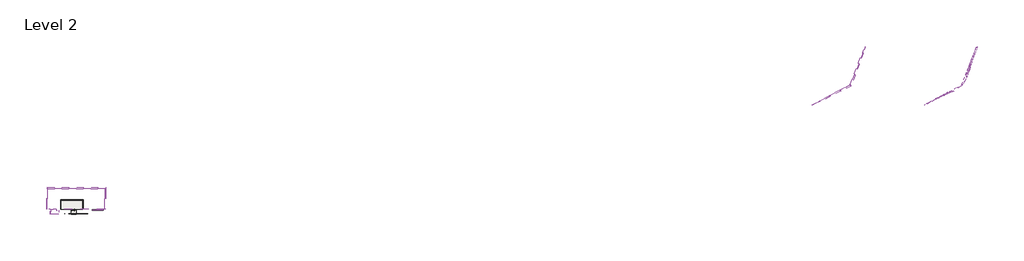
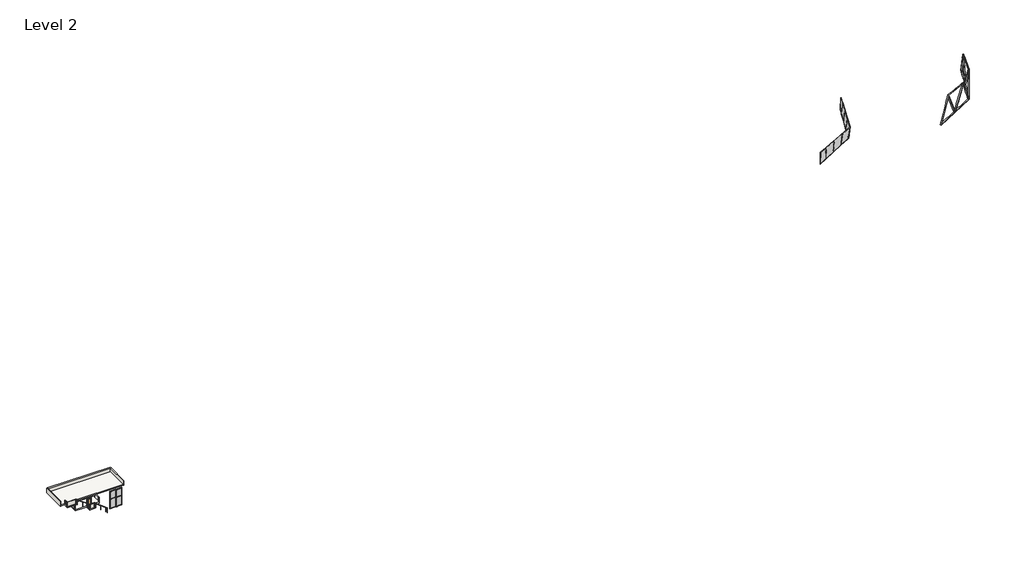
# One storey, incomplete: 30 members, 18 plates, 5 walls, 4 railings, 4 slabs, 1 door.
"""IFC4 building model written with IfcOpenShell, lengths in millimetres."""

from ifc_helpers import new_model, si_unit, frame, origin, place, context, project, spatial, polyline, outline, extrude, faceted_brep, transform, mapped, element, save
from components import m_single_glass_1_0762_x_2032mm_4bb71081, member_465d86df, member_bf9f9b58, member_fce9cc7b, member_737e6903, member_a4a2a518, member_33878ae9, member_e5f856a1, member_f76e1363, member_49bb4068, member_fa6789e4, member_02b95b9d, member_c74fcd82, member_8e96c683, member_e577d0a1, member_c71dc75c, member_d9327cc8, member_e27e8de2, member_f50f8ca6, member_f0fea5a5, member_1829b35c, member_ee409385, member_320d1225, plate_5596ec4e, plate_7c1eda09, plate_b47bc057, plate_38db130b, plate_ba2d2b6b, plate_bd606b41, empty_system_panel_empty_95a5b1c6, empty_system_panel_empty_02da1d72, empty_system_panel_empty_d6b783ce, empty_system_panel_empty_7efb6728, empty_system_panel_empty_6bcfcd67, empty_system_panel_empty_326aa2c1, empty_system_panel_empty_fd27e089, empty_system_panel_empty_c55b79c3, system_panel_glazed_29a6af3b, system_panel_glazed_d02f8e2e, guardrail_rectangular_tn_balcony_1_09f7f64d, guardrail_rectangular_tn_stairs_1_12bd660e, guardrail_rectangular_tn_stairs_2_f829b52c, guardrail_rectangular_tn_stairs_3_a4749100

model = new_model("IFC4")

# Units and contexts
model_context = context("Model", 3, world=origin())
ifc_project = project(units=[si_unit("LENGTHUNIT", "METRE", prefix="MILLI")], contexts=[model_context])

# Site, building, storey
site = spatial("IfcSite", under=ifc_project)
building = spatial("IfcBuilding", under=site)
storey = spatial("IfcBuildingStorey", under=building, Name="Level 2", Elevation=3048.0)

# Door
placement = place(None, origin())
m_single_glass_1_0762_x_2032mm_shape = m_single_glass_1_0762_x_2032mm_4bb71081(model_context)
element("IfcDoor", 1, ObjectType="M_Single-Glass 1 : 0762 x 2032mm", at=placement, inside=storey, context=model_context, shape_type="MappedRepresentation", body=[
    mapped(m_single_glass_1_0762_x_2032mm_shape, transform((-21475.1239276, -12846.8966791, 2600.0), x_axis=(-1.0, 0.0, 0.0), y_axis=(0.0, -1.0, 0.0), z_axis=(0.0, 0.0, 1.0))),
])

# Members
member_shape = member_465d86df(model_context)
element("IfcMember", 2, ObjectType="Circular Mullion : 2.5\" Circular", at=placement, inside=storey, context=model_context, shape_type="MappedRepresentation", body=[
    mapped(member_shape, transform((172184.898253, 14582.8122111, 8980.3473318), x_axis=(-0.8899639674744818, -0.45590503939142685, -0.010711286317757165), y_axis=(0.45603085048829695, -0.8897184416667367, -0.020903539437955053), z_axis=(0.0, -0.023488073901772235, 0.9997241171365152))),
])
member_2_shape = member_bf9f9b58(model_context)
element("IfcMember", 3, ObjectType="Circular Mullion : 2.5\" Circular", at=placement, inside=storey, context=model_context, shape_type="MappedRepresentation", body=[
    mapped(member_2_shape, transform((174020.541417, 15632.6434293, 5942.2259725), x_axis=(0.04117391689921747, -0.077245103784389, 0.9961615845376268), y_axis=(0.46857394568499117, -0.8790769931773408, -0.0875334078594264), z_axis=(0.8824642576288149, 0.470379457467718, 0.0))),
])
member_3_shape = member_fce9cc7b(model_context)
element("IfcMember", 4, ObjectType="Circular Mullion : 2.5\" Circular", at=placement, inside=storey, context=model_context, shape_type="MappedRepresentation", body=[
    mapped(member_3_shape, transform((176693.1325395, 17057.2132647, 5942.2259725), x_axis=(0.05686888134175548, -0.10668993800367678, 0.9926646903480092), y_axis=(0.46692907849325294, -0.8759911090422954, -0.12090001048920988), z_axis=(0.8824642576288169, 0.470379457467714, 0.0))),
])
element("IfcMember", 5, ObjectType="Circular Mullion : 2.5\" Circular", at=placement, inside=storey, context=model_context, shape_type="MappedRepresentation", body=[
    mapped(member_3_shape, transform((179365.723662, 18481.7831001, 5942.2259725), x_axis=(0.07237347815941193, -0.13577762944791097, 0.9880923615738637), y_axis=(0.46477834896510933, -0.8719561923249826, -0.15386190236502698), z_axis=(0.8824642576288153, 0.47037945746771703, 0.0))),
])
member_4_shape = member_737e6903(model_context)
element("IfcMember", 6, ObjectType="Circular Mullion : 2.5\" Circular", at=placement, inside=storey, context=model_context, shape_type="MappedRepresentation", body=[
    mapped(member_4_shape, transform((182010.2965443, 19891.4183877, 5942.2259725), x_axis=(0.08748156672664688, -0.16412144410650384, 0.9825533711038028), y_axis=(0.462172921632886, -0.8670682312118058, -0.18598084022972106), z_axis=(0.8824642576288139, 0.47037945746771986, 0.0))),
])
member_5_shape = member_a4a2a518(model_context)
element("IfcMember", 7, ObjectType="Circular Mullion : 2.5\" Circular", at=placement, inside=storey, context=model_context, shape_type="MappedRepresentation", body=[
    mapped(member_5_shape, transform((174048.5596572, 15647.5779771, 5942.2259725), x_axis=(0.8825700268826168, 0.47017366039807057, 0.002622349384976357), y_axis=(0.46983959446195, -0.8817030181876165, -0.043017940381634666), z_axis=(-0.01791376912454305, 0.03919842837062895, -0.9990708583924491))),
])
member_6_shape = member_33878ae9(model_context)
element("IfcMember", 8, ObjectType="Circular Mullion : 2.5\" Circular", at=placement, inside=storey, context=model_context, shape_type="MappedRepresentation", body=[
    mapped(member_6_shape, transform((176721.1507797, 17072.1478125, 5942.2259725), x_axis=(0.8818875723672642, 0.4713669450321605, -0.009354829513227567), y_axis=(0.4694468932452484, -0.8797811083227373, -0.07486531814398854), z_axis=(-0.043519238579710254, 0.06163119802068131, -0.9971497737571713))),
])
member_7_shape = member_e5f856a1(model_context)
element("IfcMember", 9, ObjectType="Circular Mullion : 2.5\" Circular", at=placement, inside=storey, context=model_context, shape_type="MappedRepresentation", body=[
    mapped(member_7_shape, transform((179393.7419022, 18496.7176478, 5942.2259725), x_axis=(0.8807088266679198, 0.4731853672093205, -0.0211558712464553), y_axis=(0.468613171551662, -0.8769604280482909, -0.10649931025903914), z_axis=(-0.06894677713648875, 0.08388096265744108, -0.9940876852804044))),
])
member_8_shape = member_f76e1363(model_context)
element("IfcMember", 10, ObjectType="Circular Mullion : 2.5\" Circular", at=placement, inside=storey, context=model_context, shape_type="MappedRepresentation", body=[
    mapped(member_8_shape, transform((185957.367604, 29915.0951277, 5929.5983933), x_axis=(0.3487066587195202, 0.9372009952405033, -0.007613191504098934), y_axis=(0.9369777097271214, -0.34878975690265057, -0.02045670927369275), z_axis=(-0.02182745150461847, 0.0, -0.9997617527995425))),
])
member_9_shape = member_49bb4068(model_context)
element("IfcMember", 11, ObjectType="Circular Mullion : 2.5\" Circular", at=placement, inside=storey, context=model_context, shape_type="MappedRepresentation", body=[
    mapped(member_9_shape, transform((183142.2727065, 22689.0260706, 5929.5983933), x_axis=(0.13409221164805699, -0.052238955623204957, 0.9895910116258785), y_axis=(0.922089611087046, -0.3592229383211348, -0.14390840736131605), z_axis=(0.3630014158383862, 0.9317885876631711, 0.0))),
])
member_10_shape = member_fa6789e4(model_context)
element("IfcMember", 12, ObjectType="Circular Mullion : 2.5\" Circular", at=placement, inside=storey, context=model_context, shape_type="MappedRepresentation", body=[
    mapped(member_10_shape, transform((184231.3046248, 25484.4628617, 5929.5983933), x_axis=(0.11156237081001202, -0.043461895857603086, 0.9928065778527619), y_axis=(0.925085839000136, -0.36039019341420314, -0.1197292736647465), z_axis=(0.3630014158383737, 0.931788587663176, 0.0))),
])
element("IfcMember", 13, ObjectType="Circular Mullion : 2.5\" Circular", at=placement, inside=storey, context=model_context, shape_type="MappedRepresentation", body=[
    mapped(member_10_shape, transform((185320.3365431, 28279.8996529, 5929.5983933), x_axis=(0.08883228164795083, -0.03460682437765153, 0.9954452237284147), y_axis=(0.9275444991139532, -0.3613480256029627, -0.09533523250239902), z_axis=(0.3630014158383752, 0.9317885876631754, 0.0))),
])
member_11_shape = member_02b95b9d(model_context)
element("IfcMember", 14, ObjectType="Circular Mullion : 2.5\" Circular", at=placement, inside=storey, context=model_context, shape_type="MappedRepresentation", body=[
    mapped(member_11_shape, transform((185934.3170141, 29855.9265524, 5929.5983933), x_axis=(0.07594377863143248, -0.029585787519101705, 0.9966730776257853), y_axis=(0.9286885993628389, -0.3617937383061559, -0.08150322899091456), z_axis=(0.36300141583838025, 0.9317885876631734, 0.0))),
])
member_12_shape = member_c74fcd82(model_context)
element("IfcMember", 15, ObjectType="Circular Mullion : 2.5\" Circular", at=placement, inside=storey, context=model_context, shape_type="MappedRepresentation", body=[
    mapped(member_12_shape, transform((183153.7980014, 22718.6103582, 5929.5983933), x_axis=(0.3686184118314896, 0.9285290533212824, 0.044207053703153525), y_axis=(0.9266032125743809, -0.3632186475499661, -0.09735861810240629), z_axis=(-0.07434347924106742, 0.07685057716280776, -0.9942670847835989))),
])
member_13_shape = member_8e96c683(model_context)
element("IfcMember", 16, ObjectType="Circular Mullion : 2.5\" Circular", at=placement, inside=storey, context=model_context, shape_type="MappedRepresentation", body=[
    mapped(member_13_shape, transform((184242.8299197, 25514.0471494, 5929.5983933), x_axis=(0.36560324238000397, 0.930457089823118, 0.024163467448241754), y_axis=(0.9291990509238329, -0.3633547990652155, -0.0675456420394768), z_axis=(-0.05406840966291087, 0.04714757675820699, -0.9974235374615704))),
])
member_14_shape = member_e577d0a1(model_context)
element("IfcMember", 17, ObjectType="Circular Mullion : 2.5\" Circular", at=placement, inside=storey, context=model_context, shape_type="MappedRepresentation", body=[
    mapped(member_14_shape, transform((185331.861838, 28309.4839405, 5929.5983933), x_axis=(0.3633406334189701, 0.9316484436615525, 0.003842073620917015), y_axis=(0.9310495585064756, -0.3629520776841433, -0.03758335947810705), z_axis=(-0.03361998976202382, 0.017232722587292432, -0.9992861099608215))),
])
member_15_shape = member_c71dc75c(model_context)
element("IfcMember", 18, ObjectType="Circular Mullion : 2.5\" Circular", at=placement, inside=storey, context=model_context, shape_type="MappedRepresentation", body=[
    mapped(member_15_shape, transform((182066.3330246, 19921.2874832, 5942.2259725), x_axis=(0.8873309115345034, 0.45978908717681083, -0.035183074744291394), y_axis=(0.45142763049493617, -0.8816942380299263, -0.13721648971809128), z_axis=(-0.09411135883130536, 0.10587382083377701, -0.9899160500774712))),
])
member_16_shape = member_d9327cc8(model_context)
element("IfcMember", 19, ObjectType="Circular Mullion : 2.5\" Circular", at=placement, inside=storey, context=model_context, shape_type="MappedRepresentation", body=[
    mapped(member_16_shape, transform((182354.4381566, 19597.0956195, 8968.0250125), x_axis=(-0.35509346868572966, -0.9324825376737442, -0.06621892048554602), y_axis=(0.9300554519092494, -0.3452414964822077, -0.12571859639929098), z_axis=(0.09436887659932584, -0.10622912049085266, 0.989853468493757))),
])
member_17_shape = member_e27e8de2(model_context)
element("IfcMember", 20, ObjectType="Rectangular Mullion : 2.5\" x 5\" rectangular", at=placement, inside=storey, context=model_context, shape_type="MappedRepresentation", body=[
    mapped(member_17_shape, transform((-13563.6239276, -12846.8966791, 4503.09822), x_axis=(0.0, 0.0, 1.0), y_axis=(0.0, -1.0, 0.0), z_axis=(1.0, 0.0, 0.0))),
])
element("IfcMember", 21, ObjectType="Rectangular Mullion : 2.5\" x 5\" rectangular", at=placement, inside=storey, context=model_context, shape_type="MappedRepresentation", body=[
    mapped(member_17_shape, transform((-14981.8739276, -12846.8966791, 4503.09822), x_axis=(0.0, 0.0, 1.0), y_axis=(0.0, -1.0, 0.0), z_axis=(1.0, 0.0, 0.0))),
])
element("IfcMember", 22, ObjectType="Rectangular Mullion : 2.5\" x 5\" rectangular", at=placement, inside=storey, context=model_context, shape_type="MappedRepresentation", body=[
    mapped(member_17_shape, transform((-16336.6239276, -12846.8966791, 92.338716), x_axis=(0.0, 0.0, -1.0), y_axis=(0.0, -1.0, 0.0), z_axis=(-1.0, 0.0, 0.0))),
])
element("IfcMember", 23, ObjectType="Rectangular Mullion : 2.5\" x 5\" rectangular", at=placement, inside=storey, context=model_context, shape_type="MappedRepresentation", body=[
    mapped(member_17_shape, transform((-14918.3739276, -12846.8966791, 92.338716), x_axis=(0.0, 0.0, -1.0), y_axis=(0.0, -1.0, 0.0), z_axis=(-1.0, 0.0, 0.0))),
])
member_18_shape = member_f50f8ca6(model_context)
element("IfcMember", 24, ObjectType="Rectangular Mullion : 2.5\" x 5\" rectangular", at=placement, inside=storey, context=model_context, shape_type="MappedRepresentation", body=[
    mapped(member_18_shape, transform((-14981.8739276, -12846.8966791, 2530.738716), x_axis=(0.0, 0.0, 1.0), y_axis=(0.0, -1.0, 0.0), z_axis=(1.0, 0.0, 0.0))),
])
element("IfcMember", 25, ObjectType="Rectangular Mullion : 2.5\" x 5\" rectangular", at=placement, inside=storey, context=model_context, shape_type="MappedRepresentation", body=[
    mapped(member_18_shape, transform((-13563.6239276, -12846.8966791, 2530.738716), x_axis=(0.0, 0.0, 1.0), y_axis=(0.0, -1.0, 0.0), z_axis=(1.0, 0.0, 0.0))),
])
member_19_shape = member_f0fea5a5(model_context)
element("IfcMember", 26, ObjectType="Rectangular Mullion : 2.5\" x 5\" rectangular", at=placement, inside=storey, context=model_context, shape_type="MappedRepresentation", body=[
    mapped(member_19_shape, transform((-14950.1239276, -12846.8966791, 92.338716), x_axis=(1.0, 0.0, 0.0), y_axis=(0.0, -1.0, 0.0), z_axis=(0.0, 0.0, -1.0))),
])
member_20_shape = member_1829b35c(model_context)
element("IfcMember", 27, ObjectType="Rectangular Mullion : 2.5\" x 5\" rectangular", at=placement, inside=storey, context=model_context, shape_type="MappedRepresentation", body=[
    mapped(member_20_shape, transform((-14950.1239276, -12846.8966791, 2530.738716), x_axis=(1.0, 0.0, 0.0), y_axis=(0.0, -1.0, 0.0), z_axis=(0.0, 0.0, -1.0))),
])
member_21_shape = member_ee409385(model_context)
element("IfcMember", 28, ObjectType="Rectangular Mullion : 2.5\" x 5\" rectangular", at=placement, inside=storey, context=model_context, shape_type="MappedRepresentation", body=[
    mapped(member_21_shape, transform((-13500.1239276, -12846.8966791, 92.338716), x_axis=(1.0, 0.0, 0.0), y_axis=(0.0, -1.0, 0.0), z_axis=(0.0, 0.0, -1.0))),
])
member_22_shape = member_320d1225(model_context)
element("IfcMember", 29, ObjectType="Rectangular Mullion : 2.5\" x 5\" rectangular", at=placement, inside=storey, context=model_context, shape_type="MappedRepresentation", body=[
    mapped(member_22_shape, transform((-13500.1239276, -12846.8966791, 2530.738716), x_axis=(1.0, 0.0, 0.0), y_axis=(0.0, -1.0, 0.0), z_axis=(0.0, 0.0, -1.0))),
])
element("IfcMember", 30, ObjectType="Rectangular Mullion : 2.5\" x 5\" rectangular", at=placement, inside=storey, context=model_context, shape_type="MappedRepresentation", body=[
    mapped(member_22_shape, transform((-16400.1239276, -12846.8966791, 4503.09822), x_axis=(-1.0, 0.0, 0.0), y_axis=(0.0, -1.0, 0.0), z_axis=(0.0, 0.0, 1.0))),
])
element("IfcMember", 31, ObjectType="Rectangular Mullion : 2.5\" x 5\" rectangular", at=placement, inside=storey, context=model_context, shape_type="MappedRepresentation", body=[
    mapped(member_21_shape, transform((-16400.1239276, -12846.8966791, 2530.738716), x_axis=(-1.0, 0.0, 0.0), y_axis=(0.0, -1.0, 0.0), z_axis=(0.0, 0.0, 1.0))),
])

# Plates
plate_shape = plate_5596ec4e(model_context)
element("IfcPlate", 32, ObjectType="tn_cpanel_patbase_triangle_flat_seamless_frame_02_cylinder : tn_triangle_seamless_frame_t8\"xh8\"", at=placement, inside=storey, context=model_context, shape_type="MappedRepresentation", body=[
    mapped(plate_shape, transform((211354.2463974, 19170.4744723, 4528.3749123), x_axis=(0.3093717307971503, 0.9505947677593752, 0.025665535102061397), y_axis=(0.012813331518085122, -0.031154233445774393, 0.9994324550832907), z_axis=(0.9508548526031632, -0.308867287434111, -0.0218185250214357))),
])
plate_2_shape = plate_7c1eda09(model_context)
element("IfcPlate", 33, ObjectType="tn_cpanel_patbase_triangle_flat_seamless_frame_02_cylinder : tn_triangle_seamless_frame_t8\"xh8\"", at=placement, inside=storey, context=model_context, shape_type="MappedRepresentation", body=[
    mapped(plate_2_shape, transform((214757.1751332, 27780.4889664, 13021.0380401), x_axis=(-0.36550456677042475, -0.9303066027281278, -0.03059471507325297), y_axis=(-0.03524542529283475, 0.04667783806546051, -0.998288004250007), z_axis=(0.930142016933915, -0.3638005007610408, -0.04985001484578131))),
])
plate_3_shape = plate_b47bc057(model_context)
element("IfcPlate", 34, ObjectType="tn_cpanel_patbase_triangle_flat_seamless_frame_02_cylinder : tn_triangle_seamless_frame_t8\"xh8\"", at=placement, inside=storey, context=model_context, shape_type="MappedRepresentation", body=[
    mapped(plate_3_shape, transform((216379.9733416, 32989.4685641, 12952.3013892), x_axis=(-0.36413833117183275, -0.9311702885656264, -0.01803245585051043), y_axis=(0.009663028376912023, 0.01558334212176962, -0.9998318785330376), z_axis=(0.9312947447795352, -0.3642513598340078, 0.0033234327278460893))),
])
plate_4_shape = plate_38db130b(model_context)
element("IfcPlate", 35, ObjectType="tn_cpanel_patbase_triangle_flat_seamless_frame_02_cylinder : tn_triangle_seamless_frame_t8\"xh8\"", at=placement, inside=storey, context=model_context, shape_type="MappedRepresentation", body=[
    mapped(plate_4_shape, transform((200816.7857258, 14756.2856745, 4819.2413543), x_axis=(0.9070813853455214, 0.42050060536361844, -0.019560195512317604), y_axis=(0.028617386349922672, -0.015239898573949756, 0.9994742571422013), z_axis=(0.4199814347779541, -0.9071642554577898, -0.025857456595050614))),
])
plate_5_shape = plate_ba2d2b6b(model_context)
element("IfcPlate", 36, ObjectType="tn_cpanel_patbase_triangle_flat_seamless_frame_02_cylinder : tn_triangle_seamless_frame_t8\"xh8\"", at=placement, inside=storey, context=model_context, shape_type="MappedRepresentation", body=[
    mapped(plate_5_shape, transform((209387.5391701, 18914.6641403, 12772.8890577), x_axis=(-0.8816455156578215, -0.4716281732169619, 0.01637226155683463), y_axis=(-0.01431430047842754, -0.007951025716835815, -0.9998659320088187), z_axis=(0.4716951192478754, -0.8817616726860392, 0.0002589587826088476))),
])
plate_6_shape = plate_bd606b41(model_context)
element("IfcPlate", 37, ObjectType="tn_cpanel_patbase_triangle_flat_seamless_frame_02_cylinder : tn_triangle_seamless_frame_t8\"xh8\"", at=placement, inside=storey, context=model_context, shape_type="MappedRepresentation", body=[
    mapped(plate_6_shape, transform((214518.4676233, 21231.3831931, 12745.0283099), x_axis=(-0.8810879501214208, -0.47254310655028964, 0.019673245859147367), y_axis=(-0.04287748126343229, 0.03838420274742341, -0.9983427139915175), z_axis=(0.4710048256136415, -0.8804712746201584, -0.054081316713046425))),
])
empty_system_panel_empty_shape = empty_system_panel_empty_95a5b1c6(model_context)
element("IfcPlate", 38, ObjectType="Empty System Panel : Empty", at=placement, inside=storey, context=model_context, shape_type="MappedRepresentation", body=[
    mapped(empty_system_panel_empty_shape, transform((182583.4482242, 21241.4306525, 5961.0124307), x_axis=(0.3490978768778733, 0.9370847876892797, 0.0016652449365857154), y_axis=(-0.931336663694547, 0.3467588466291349, 0.11122194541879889), z_axis=(0.10364695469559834, -0.040378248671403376, 0.9937941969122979))),
])
empty_system_panel_empty_2_shape = empty_system_panel_empty_02da1d72(model_context)
element("IfcPlate", 39, ObjectType="Empty System Panel : Empty", at=placement, inside=storey, context=model_context, shape_type="MappedRepresentation", body=[
    mapped(empty_system_panel_empty_2_shape, transform((183676.9398124, 24051.4893577, 5961.1578865), x_axis=(0.34901813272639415, 0.9371151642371, 0.0012296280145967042), y_axis=(-0.9340033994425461, 0.34775173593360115, 0.08189249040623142), z_axis=(0.0763150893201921, -0.02973044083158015, 0.9966404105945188))),
])
empty_system_panel_empty_3_shape = empty_system_panel_empty_d6b783ce(model_context)
element("IfcPlate", 40, ObjectType="Empty System Panel : Empty", at=placement, inside=storey, context=model_context, shape_type="MappedRepresentation", body=[
    mapped(empty_system_panel_empty_3_shape, transform((184775.9741464, 26876.4639141, 5961.2756886), x_axis=(0.3489622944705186, 0.9371364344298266, 0.0007875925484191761), y_axis=(-0.9358661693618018, 0.3484452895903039, 0.05234876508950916), z_axis=(0.04878350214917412, -0.01900482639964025, 0.998628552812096))),
])
empty_system_panel_empty_4_shape = empty_system_panel_empty_7efb6728(model_context)
element("IfcPlate", 41, ObjectType="Empty System Panel : Empty", at=placement, inside=storey, context=model_context, shape_type="MappedRepresentation", body=[
    mapped(empty_system_panel_empty_4_shape, transform((185642.0678407, 29102.811343, 5961.3307845), x_axis=(0.348935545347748, 0.9371466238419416, 0.0004365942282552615), y_axis=(-0.9367572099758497, 0.34877704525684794, 0.02899141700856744), z_axis=(0.027016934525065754, -0.010525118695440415, 0.9995795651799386))),
])
empty_system_panel_empty_5_shape = empty_system_panel_empty_6bcfcd67(model_context)
element("IfcPlate", 42, ObjectType="Empty System Panel : Empty", at=placement, inside=storey, context=model_context, shape_type="MappedRepresentation", body=[
    mapped(empty_system_panel_empty_5_shape, transform((173116.2788945, 15149.5127966, 5973.9602564), x_axis=(0.8898511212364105, 0.4562507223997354, -0.000510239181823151), y_axis=(-0.4560028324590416, 0.8894034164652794, 0.03198405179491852), z_axis=(0.015046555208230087, -0.028228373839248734, 0.9994882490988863))),
])
empty_system_panel_empty_6_shape = empty_system_panel_empty_326aa2c1(model_context)
element("IfcPlate", 43, ObjectType="Empty System Panel : Empty", at=placement, inside=storey, context=model_context, shape_type="MappedRepresentation", body=[
    mapped(empty_system_panel_empty_6_shape, transform((175394.842761, 16362.8826545, 5973.9112305), x_axis=(0.8898330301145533, 0.45628532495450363, -0.0009384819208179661), y_axis=(-0.4554441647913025, 0.8883137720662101, 0.05890038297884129), z_axis=(0.02770904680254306, -0.05198408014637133, 0.9982634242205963))),
])
empty_system_panel_empty_7_shape = empty_system_panel_empty_fd27e089(model_context)
element("IfcPlate", 44, ObjectType="Empty System Panel : Empty", at=placement, inside=storey, context=model_context, shape_type="MappedRepresentation", body=[
    mapped(empty_system_panel_empty_7_shape, transform((178088.0415399, 17796.896736, 5973.7985488), x_axis=(0.889798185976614, 0.45635197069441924, -0.0014377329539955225), y_axis=(-0.4543662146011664, 0.8862113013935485, 0.09044817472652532), z_axis=(0.04255033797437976, -0.07982736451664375, 0.9959001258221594))),
])
empty_system_panel_empty_8_shape = empty_system_panel_empty_c55b79c3(model_context)
element("IfcPlate", 45, ObjectType="Empty System Panel : Empty", at=placement, inside=storey, context=model_context, shape_type="MappedRepresentation", body=[
    mapped(empty_system_panel_empty_8_shape, transform((180763.280033, 19221.7124741, 5973.6717027), x_axis=(0.8897491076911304, 0.4564458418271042, -0.0019284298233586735), y_axis=(-0.45284355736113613, 0.8832414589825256, 0.12172607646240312), z_axis=(0.05726463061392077, -0.10743239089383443, 0.9925618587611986))),
])
system_panel_glazed_shape = system_panel_glazed_29a6af3b(model_context)
element("IfcPlate", 46, ObjectType="System Panel : Glazed", at=placement, inside=storey, context=model_context, shape_type="MappedRepresentation", body=[
    mapped(system_panel_glazed_shape, transform((-15659.2489276, -12846.8966791, 155.838716), x_axis=(1.0, 0.0, 0.0), y_axis=(0.0, 1.0, 0.0), z_axis=(0.0, 0.0, 1.0))),
])
element("IfcPlate", 47, ObjectType="System Panel : Glazed", at=placement, inside=storey, context=model_context, shape_type="MappedRepresentation", body=[
    mapped(system_panel_glazed_shape, transform((-14240.9989276, -12846.8966791, 155.838716), x_axis=(1.0, 0.0, 0.0), y_axis=(0.0, 1.0, 0.0), z_axis=(0.0, 0.0, 1.0))),
])
system_panel_glazed_2_shape = system_panel_glazed_d02f8e2e(model_context)
element("IfcPlate", 48, ObjectType="System Panel : Glazed", at=placement, inside=storey, context=model_context, shape_type="MappedRepresentation", body=[
    mapped(system_panel_glazed_2_shape, transform((-15659.2489276, -12846.8966791, 2562.488716), x_axis=(1.0, 0.0, 0.0), y_axis=(0.0, 1.0, 0.0), z_axis=(0.0, 0.0, 1.0))),
])
element("IfcPlate", 49, ObjectType="System Panel : Glazed", at=placement, inside=storey, context=model_context, shape_type="MappedRepresentation", body=[
    mapped(system_panel_glazed_2_shape, transform((-14240.9989276, -12846.8966791, 2562.488716), x_axis=(1.0, 0.0, 0.0), y_axis=(0.0, 1.0, 0.0), z_axis=(0.0, 0.0, 1.0))),
])

# Railings
guardrail_rectangular_tn_balcony_1_shape = guardrail_rectangular_tn_balcony_1_09f7f64d(model_context)
element("IfcRailing", 50, ObjectType="Guardrail - Rectangular TN balcony 1", at=placement, inside=storey, context=model_context, shape_type="MappedRepresentation", body=[
    mapped(guardrail_rectangular_tn_balcony_1_shape, transform((0.0, 0.0, 0.0), x_axis=(1.0, 0.0, 0.0), y_axis=(0.0, 1.0, 0.0), z_axis=(0.0, 0.0, 1.0))),
])
guardrail_rectangular_tn_stairs_1_shape = guardrail_rectangular_tn_stairs_1_12bd660e(model_context)
element("IfcRailing", 51, ObjectType="Guardrail - Rectangular TN stairs 1", at=placement, inside=storey, context=model_context, shape_type="MappedRepresentation", body=[
    mapped(guardrail_rectangular_tn_stairs_1_shape, transform((0.0, 0.0, 0.0), x_axis=(1.0, 0.0, 0.0), y_axis=(0.0, 1.0, 0.0), z_axis=(0.0, 0.0, 1.0))),
])
guardrail_rectangular_tn_stairs_2_shape = guardrail_rectangular_tn_stairs_2_f829b52c(model_context)
element("IfcRailing", 52, ObjectType="Guardrail - Rectangular TN stairs 2", at=placement, inside=storey, context=model_context, shape_type="MappedRepresentation", body=[
    mapped(guardrail_rectangular_tn_stairs_2_shape, transform((0.0, 0.0, 0.0), x_axis=(1.0, 0.0, 0.0), y_axis=(0.0, 1.0, 0.0), z_axis=(0.0, 0.0, 1.0))),
])
guardrail_rectangular_tn_stairs_3_shape = guardrail_rectangular_tn_stairs_3_a4749100(model_context)
element("IfcRailing", 53, ObjectType="Guardrail - Rectangular TN stairs 3", at=placement, inside=storey, context=model_context, shape_type="MappedRepresentation", body=[
    mapped(guardrail_rectangular_tn_stairs_3_shape, transform((0.0, 0.0, 0.0), x_axis=(1.0, 0.0, 0.0), y_axis=(0.0, 1.0, 0.0), z_axis=(0.0, 0.0, 1.0))),
])

# Slabs
element("IfcSlab", 54, ObjectType="Generic 300mm", at=placement, inside=storey, context=model_context, shape_type="Brep", body=[
    faceted_brep([(-18900.1239276, -10296.8966791, 2300.0), (-18900.1239276, -12696.8966791, 2300.0), (-24685.6239276, -12696.8966791, 2300.0), (-24685.6239276, -10296.8966791, 2300.0), (-18900.1239276, -10296.8966791, 2600.0), (-24685.6239276, -10296.8966791, 2600.0), (-24685.6239276, -12696.8966791, 2600.0), (-21856.1239276, -12696.8966791, 2600.0), (-21094.1239276, -12696.8966791, 2600.0), (-18900.1239276, -12696.8966791, 2600.0)], [[[0, 1, 2, 3]], [[4, 5, 6, 7, 8, 9]], [[1, 0, 4, 9]], [[2, 1, 9, 8, 7, 6]], [[3, 2, 6, 5]], [[0, 3, 5, 4]]]),
])
element("IfcSlab", 55, ObjectType="Generic 300mm", at=placement, inside=storey, context=model_context, shape_type="Brep", body=[
    faceted_brep([(-13100.1239276, -7296.8966791, 4800.0), (-13100.1239276, -12696.8966791, 4800.0), (-25918.391678, -12696.8966791, 4800.0), (-27400.1239276, -12696.8966791, 4800.0), (-28200.1239276, -12696.8966791, 4800.0), (-28200.1239276, -7296.8966791, 4800.0), (-13100.1239276, -7296.8966791, 5100.0), (-28200.1239276, -7296.8966791, 5100.0), (-28200.1239276, -12696.8966791, 5100.0), (-27400.1239276, -12696.8966791, 5100.0), (-25918.391678, -12696.8966791, 5100.0), (-13100.1239276, -12696.8966791, 5100.0)], [[[0, 1, 2, 3, 4, 5]], [[6, 7, 8, 9, 10, 11]], [[1, 0, 6, 11]], [[4, 3, 2, 1, 11, 10, 9, 8]], [[5, 4, 8, 7]], [[0, 5, 7, 6]]]),
])
element("IfcSlab", 56, ObjectType="Generic 300mm", at=placement, inside=storey, context=model_context, shape_type="Brep", body=[
    faceted_brep([(-21950.1239276, -13946.8966791, 2300.0), (-21950.1239276, -12996.8966791, 2300.0), (-20650.1239276, -12996.8966791, 2300.0), (-20650.1239276, -13946.8966791, 2300.0), (-21950.1239276, -13946.8966791, 2600.0), (-21811.1057462, -13946.8966791, 2600.0), (-20891.1057462, -13946.8966791, 2600.0), (-20650.1239276, -13946.8966791, 2600.0), (-20650.1239276, -12996.8966791, 2600.0), (-21950.1239276, -12996.8966791, 2600.0)], [[[0, 1, 2, 3]], [[4, 5, 6, 7, 8, 9]], [[1, 0, 4, 9]], [[2, 1, 9, 8]], [[3, 2, 8, 7]], [[0, 3, 7, 6, 5, 4]]]),
])
element("IfcSlab", 57, ObjectType="Generic 300mm", at=placement, inside=storey, context=model_context, shape_type="Brep", body=[
    faceted_brep([(-27400.1239276, -13946.8966791, 4800.0), (-27400.1239276, -12696.8966791, 4800.0), (-25918.391678, -12696.8966791, 4800.0), (-25918.391678, -12996.8966791, 4800.0), (-25200.1239276, -12996.8966791, 4800.0), (-25200.1239276, -13946.8966791, 4800.0), (-27400.1239276, -13946.8966791, 5100.0), (-25400.1239276, -13946.8966791, 5100.0), (-25200.1239276, -13946.8966791, 5100.0), (-25200.1239276, -12996.8966791, 5100.0), (-25918.391678, -12996.8966791, 5100.0), (-25918.391678, -12696.8966791, 5100.0), (-27400.1239276, -12696.8966791, 5100.0), (-27400.1239276, -13808.3966791, 5100.0)], [[[0, 1, 2, 3, 4, 5]], [[6, 7, 8, 9, 10, 11, 12, 13]], [[1, 0, 6, 13, 12]], [[4, 3, 10, 9]], [[5, 4, 9, 8]], [[0, 5, 8, 7, 6]], [[2, 1, 12, 11]], [[3, 2, 11, 10]]]),
])

# Walls
element("IfcWall", 58, ObjectType="Generic - 200mm", at=placement, inside=storey, context=model_context, shape_type="Brep", body=[
    faceted_brep([(-28200.1239276, -12696.8966791, 4800.0), (-28200.1239276, -7296.8966791, 4800.0), (-28200.1239276, -6996.8966791, 4800.0), (-28200.1239276, -6996.8966791, 6000.0), (-28200.1239276, -7296.8966791, 6000.0), (-28200.1239276, -12696.8966791, 6000.0), (-28200.1239276, -12696.8966791, 5100.0), (-28400.1239276, -12696.8966791, 4800.0), (-28400.1239276, -12696.8966791, 6000.0), (-28400.1239276, -6996.8966791, 6000.0), (-28400.1239276, -6996.8966791, 4800.0)], [[[0, 1, 2, 3, 4, 5, 6]], [[7, 8, 9, 10]], [[2, 1, 0, 7, 10]], [[5, 4, 3, 9, 8]], [[0, 6, 5, 8, 7]], [[3, 2, 10, 9]]]),
])
element("IfcWall", 59, ObjectType="Generic - 200mm", at=placement, inside=storey, context=model_context, shape_type="Brep", body=[
    faceted_brep([(-12900.1239276, -12696.8966791, 4800.0), (-12900.1239276, -7296.8966791, 4800.0), (-12900.1239276, -7296.8966791, 6000.0), (-12900.1239276, -12696.8966791, 6000.0), (-13100.1239276, -12696.8966791, 4800.0), (-13100.1239276, -12696.8966791, 5100.0), (-13100.1239276, -12696.8966791, 6000.0), (-13100.1239276, -7296.8966791, 6000.0), (-13100.1239276, -7296.8966791, 5100.0), (-13100.1239276, -7296.8966791, 4800.0)], [[[0, 1, 2, 3]], [[4, 5, 6, 7, 8, 9]], [[1, 0, 4, 9]], [[3, 2, 7, 6]], [[2, 1, 9, 8, 7]], [[0, 3, 6, 5, 4]]]),
])
element("IfcWall", 60, ObjectType="Generic - 300mm", at=placement, inside=storey, context=model_context, shape_type="Brep", body=[
    faceted_brep([(-28200.1239276, -7296.8966791, 4800.0), (-13100.1239276, -7296.8966791, 4800.0), (-12900.1239276, -7296.8966791, 4800.0), (-12900.1239276, -7296.8966791, 6000.0), (-13100.1239276, -7296.8966791, 6000.0), (-28200.1239276, -7296.8966791, 6000.0), (-28200.1239276, -7296.8966791, 5100.0), (-28200.1239276, -6996.8966791, 4800.0), (-28200.1239276, -6996.8966791, 6000.0), (-12900.1239276, -6996.8966791, 6000.0), (-12900.1239276, -6996.8966791, 4800.0)], [[[0, 1, 2, 3, 4, 5, 6]], [[7, 8, 9, 10]], [[2, 1, 0, 7, 10]], [[5, 4, 3, 9, 8]], [[0, 6, 5, 8, 7]], [[3, 2, 10, 9]]]),
])
element("IfcWall", 61, ObjectType="Interior - 138mm Partition (1-hr)", at=placement, inside=storey, context=model_context, shape_type="SweptSolid", body=[
    extrude(outline(polyline([(-25400.1239276, -13946.8966791), (-27400.1239276, -13946.8966791), (-27400.1239276, -13808.3966791), (-25400.1239276, -13808.3966791), (-25400.1239276, -13946.8966791)])), frame((0.0, 0.0, 5100.0), z_axis=(0.0, 0.0, 1.0), x_axis=(1.0, 0.0, 0.0)), (0.0, 0.0, 1.0), 1100.0),
])
element("IfcWall", 62, ObjectType="Interior - 138mm Partition (1-hr)", at=placement, inside=storey, context=model_context, shape_type="SweptSolid", body=[
    extrude(outline(polyline([(-20891.1057462, -13946.8966791), (-21811.1057462, -13946.8966791), (-21811.1057462, -13808.3966791), (-20891.1057462, -13808.3966791), (-20891.1057462, -13946.8966791)])), frame((0.0, 0.0, 2600.0), z_axis=(0.0, 0.0, 1.0), x_axis=(1.0, 0.0, 0.0)), (0.0, 0.0, 1.0), 1100.0),
])

save(model, "model.ifc")
